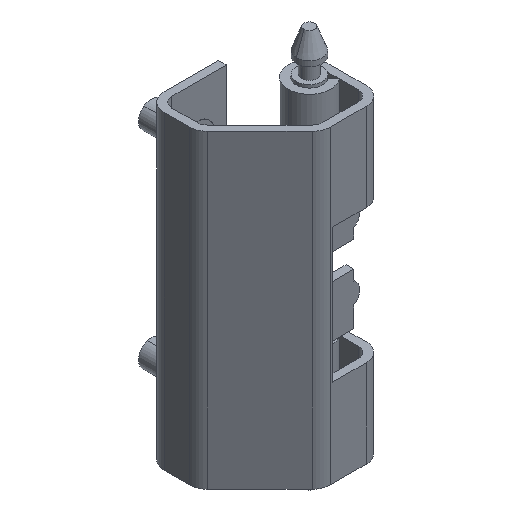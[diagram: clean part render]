
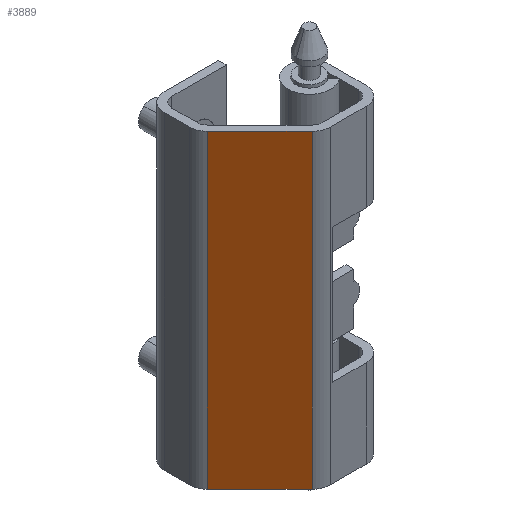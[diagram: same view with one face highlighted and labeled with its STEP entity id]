
A CAD part, isometric view. The second image highlights one B-rep face of the part: STEP entity #3889.
In plain terms, the highlighted planar face has unit normal (-0.707, -0.707, 0).
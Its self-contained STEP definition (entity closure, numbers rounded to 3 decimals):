
#210 = CARTESIAN_POINT ( 'NONE',  ( -18.975, 11.175, 60. ) ) ;
#211 = DIRECTION ( 'NONE',  ( 0., 0., -1. ) ) ;
#212 = VECTOR ( 'NONE', #211, 1000. ) ;
#213 = CARTESIAN_POINT ( 'NONE',  ( -18.975, 11.175, 60. ) ) ;
#214 = LINE ( 'NONE', #213, #212 ) ;
#255 = CARTESIAN_POINT ( 'NONE',  ( -18.975, 11.175, 0. ) ) ;
#322 = DIRECTION ( 'NONE',  ( 0., 0., -1. ) ) ;
#323 = VECTOR ( 'NONE', #322, 1000. ) ;
#324 = CARTESIAN_POINT ( 'NONE',  ( -8.825, 1.025, 60. ) ) ;
#325 = LINE ( 'NONE', #324, #323 ) ;
#326 = CARTESIAN_POINT ( 'NONE',  ( -8.825, 1.025, 0. ) ) ;
#327 = CARTESIAN_POINT ( 'NONE',  ( -8.825, 1.025, 60. ) ) ;
#347 = DIRECTION ( 'NONE',  ( 0.707, -0.707, 0. ) ) ;
#348 = DIRECTION ( 'NONE',  ( -0.707, -0.707, 0. ) ) ;
#349 = CARTESIAN_POINT ( 'NONE',  ( 0.302, -8.102, 60. ) ) ;
#423 = VECTOR ( 'NONE', #524, 1000. ) ;
#445 = LINE ( 'NONE', #525, #423 ) ;
#446 = AXIS2_PLACEMENT_3D ( 'NONE', #349, #348, #347 ) ;
#447 = PLANE ( 'NONE',  #446 ) ;
#448 = FACE_OUTER_BOUND ( 'NONE', #3883, .T. ) ;
#524 = DIRECTION ( 'NONE',  ( -0.707, 0.707, 0. ) ) ;
#525 = CARTESIAN_POINT ( 'NONE',  ( 0.302, -8.102, 0. ) ) ;
#756 = DIRECTION ( 'NONE',  ( -0.707, 0.707, 0. ) ) ;
#757 = VECTOR ( 'NONE', #756, 1000. ) ;
#758 = CARTESIAN_POINT ( 'NONE',  ( 0.302, -8.102, 60. ) ) ;
#759 = LINE ( 'NONE', #758, #757 ) ;
#3824 = EDGE_CURVE ( 'NONE', #3825, #3843, #214, .T. ) ;
#3825 = VERTEX_POINT ( 'NONE', #210 ) ;
#3831 = VERTEX_POINT ( 'NONE', #327 ) ;
#3832 = ORIENTED_EDGE ( 'NONE', *, *, #3997, .T. ) ;
#3833 = VERTEX_POINT ( 'NONE', #326 ) ;
#3834 = ORIENTED_EDGE ( 'NONE', *, *, #3835, .F. ) ;
#3835 = EDGE_CURVE ( 'NONE', #3831, #3833, #325, .T. ) ;
#3843 = VERTEX_POINT ( 'NONE', #255 ) ;
#3862 = ORIENTED_EDGE ( 'NONE', *, *, #3863, .F. ) ;
#3863 = EDGE_CURVE ( 'NONE', #3833, #3843, #445, .T. ) ;
#3883 = EDGE_LOOP ( 'NONE', ( #3862, #3834, #3832, #3998 ) ) ;
#3889 = ADVANCED_FACE ( 'NONE', ( #448 ), #447, .T. ) ;
#3997 = EDGE_CURVE ( 'NONE', #3831, #3825, #759, .T. ) ;
#3998 = ORIENTED_EDGE ( 'NONE', *, *, #3824, .T. ) ;
